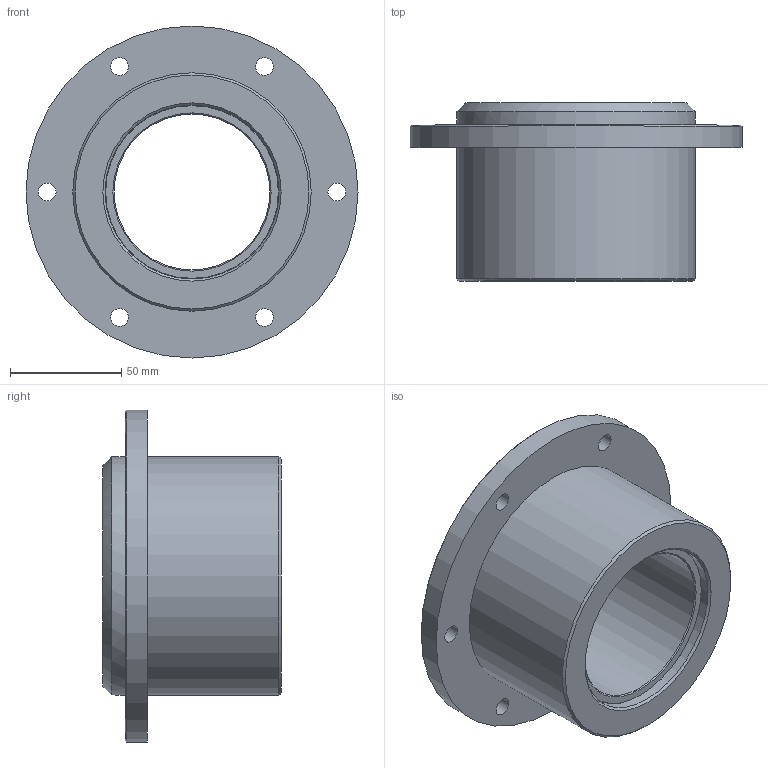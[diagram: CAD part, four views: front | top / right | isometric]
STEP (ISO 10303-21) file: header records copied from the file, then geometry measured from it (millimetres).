
FILE_DESCRIPTION(('STEP AP214'),'1');
FILE_NAME('C:/Projets/Serie 10.xx.xx/10.13.07.step','2011-11-10T15:49:56',(' '),(' '),'Spatial InterOp 3D',' ',' ');
FILE_SCHEMA(('automotive_design'));
Length unit declared in the file: metre
Products named in the file (3): boitier 07; rotule 07; 1
Bounding box: 149 x 80 x 149 mm (x, y, z)
Volume: 436565.5 mm3; surface area: 108715.7 mm2
Topology: 2 solids, 2 shells, 56 faces, 808 edges, 1431 vertices
Faces by surface type: cone 20, cylinder 19, plane 15, sphere 2
Full cylindrical faces by diameter (mm): 8 x6, 70 x1, 78 x1, 107 x2, 149 x1
Entity records: 10089 total; most frequent: CARTESIAN_POINT 989, DIRECTION 946, STYLED_ITEM 730, PRESENTATION_STYLE_ASSIGNMENT 730, COLOUR_RGB 730, LINE 698, VECTOR 698, TRIMMED_CURVE 674
